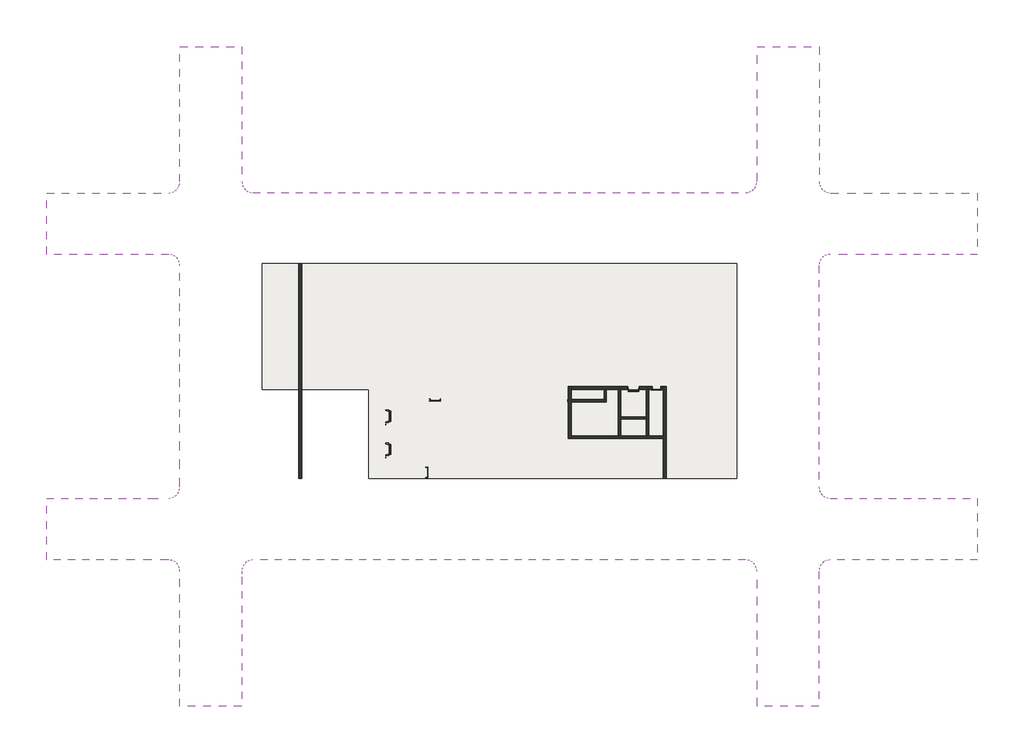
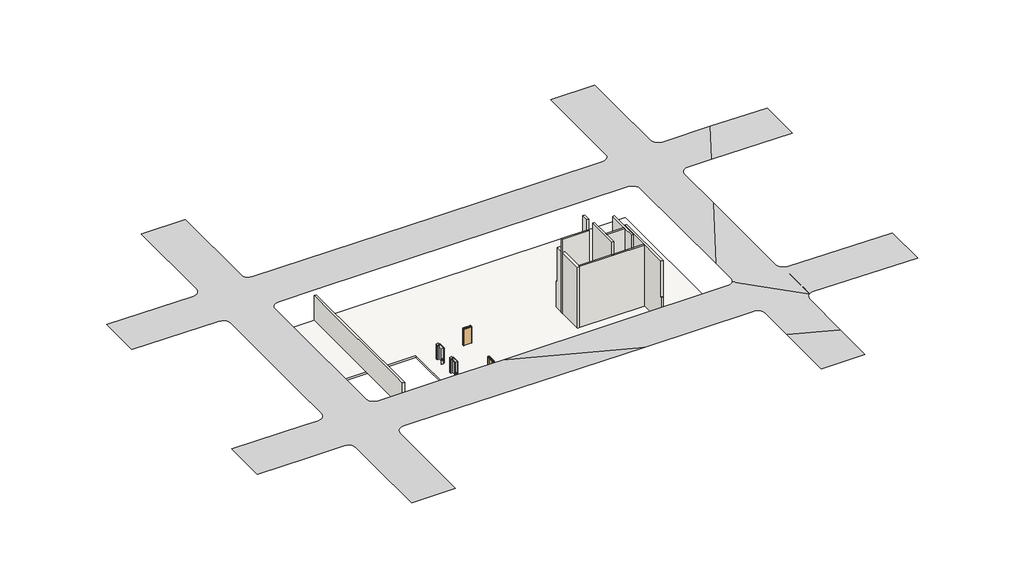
# One storey: 10 walls, 4 proxies, 3 doors, 1 slab.
"""IFC4 building model written with IfcOpenShell, lengths in millimetres."""

from ifc_helpers import new_model, si_unit, frame, origin, place, context, project, spatial, polyline, outline, extrude, faceted_brep, triangles, transform, mapped, element, save
from components import lift_single_entry_gen_type1_208d8e88, lift_single_entry_gen_type1_718a1e9e, swing_metal_frame_single_dor_f6efc24d, swing_metal_frame_single_dor1_c5ce34d2

model = new_model("IFC4")

# Units and contexts
model_context = context("Model", 3, world=origin())
ifc_project = project(units=[si_unit("LENGTHUNIT", "METRE", prefix="MILLI")], contexts=[model_context])

# Site, building, storey
site = spatial("IfcSite", under=ifc_project)
building = spatial("IfcBuilding", under=site)
storey = spatial("IfcBuildingStorey", under=building, Name="B1階", Elevation=21600.0)

# Proxies
placement = place(None, origin())
element("IfcBuildingElementProxy", 1, Name="Building Element Proxy", at=placement, inside=storey, context=model_context, shape_type="Tessellation", body=[
    triangles([(52234.9976807, 19209.9995361, 24930.3108398), (52283.9435303, 19519.0178833, 24929.2783447), (52425.9813721, 19797.7845886, 24928.2132935), (52647.2143799, 20019.0175964, 24927.2180054), (52925.9834106, 20161.0554382, 24926.3947998), (53235.0017578, 20209.9989624, 24925.8180908), (56267.7236206, 20209.9989624, 24921.6718323), (66363.1167114, 20209.9989624, 24802.7186279), (66363.1167114, 25689.999353, 24816.7038208), (59254.1087769, 25689.999353, 24900.4708008), (53255.0005371, 25689.999353, 24908.6726257), (52945.9821899, 25738.9428772, 24908.9423767), (52667.2131592, 25880.9830444, 24908.8795898), (52445.9848022, 26102.2137268, 24908.4912415), (52303.9423096, 26380.9827576, 24907.8145386), (52255.0011108, 26690.0011047, 24906.9145935), (52255.0011108, 34327.4884094, 24883.0555847), (52255.0011108, 38735.0007751, 24892.550354), (46734.9985107, 38735.0007751, 24909.198175), (46734.9985107, 32602.9866943, 24895.989679), (46734.9985107, 26709.999884, 24914.4001831), (46686.057312, 26400.9838623, 24915.4326782), (46544.0148193, 26122.2148315, 24916.4977295), (46322.7864624, 25900.9841492, 24917.4906921), (46044.0174316, 25758.9439819, 24918.3162231), (45734.9990845, 25710.0004578, 24918.8906067), (24671.0615479, 25710.0004578, 24947.6865234), (1849.6057068, 25710.0004578, 25016.5172058), (1546.7691044, 25757.9649719, 25017.5334229), (1273.5761868, 25897.1634521, 25018.6589355), (1056.7690716, 26113.9711487, 25019.7797974), (917.5703733, 26387.1637756, 25020.7867126), (869.6057138, 26690.0011047, 25021.5843384), (869.6057138, 38735.0007751, 25047.5315918), (-4650.3943428, 38735.0007751, 25064.1794128), (-4650.3943428, 26690.0011047, 25038.2321594), (-4699.337867, 26380.9827576, 25037.7159119), (-4759.2138634, 26263.4690002, 25037.6414978), (-4841.3771622, 26102.2137268, 25037.8670654), (-5062.6090073, 25880.9830444, 25038.6507385), (-5341.3774567, 25738.9428772, 25039.7553223), (-5650.3940598, 25689.999353, 25041.0738464), (-16527.2760773, 25689.999353, 25088.9011597), (-16527.2760773, 20209.9989624, 25084.2386536), (-5650.3940598, 20209.9989624, 25036.4113403), (-5341.3774567, 20161.0554382, 25035.0114258), (-5062.6090073, 20019.0175964, 25033.6649963), (-4841.3771622, 19797.7845886, 25032.5022766), (-4699.337867, 19519.0178833, 25031.641864), (-4650.3943428, 19209.9995361, 25031.1628235), (-4650.3943428, 4364.6178909, 25018.5333618), (-4650.3943428, -510.0000112, 25022.0168701), (-4699.337867, -819.0170139, 25022.2935974), (-4841.3771622, -1097.7852453, 25022.6610168), (-5062.6090073, -1319.0170177, 25023.0819214), (-5341.3774567, -1461.0564583, 25023.5121277), (-5650.3940598, -1509.9999825, 25023.9121033), (-7509.9532288, -1509.9999825, 25026.1096436), (-16527.2760773, -1509.9999825, 25065.7607117), (-16527.2760773, -7010.0000244, 25061.0819275), (-10187.1607452, -7010.0000244, 25033.2022339), (-5650.3940598, -7010.0000244, 25027.8420959), (-5341.3774567, -7058.9435486, 25027.5118835), (-5062.6090073, -7200.9831345, 25027.2839905), (-4841.3771622, -7422.2149796, 25027.1793457), (-4699.337867, -7700.9828476, 25027.2119019), (-4650.3943428, -8010.000032, 25027.3746826), (-4650.3943428, -12175.2103271, 25030.3512451), (-4650.3943428, -20035.0003418, 24999.8507812), (849.6056992, -20035.0003418, 24976.6266174), (849.6056992, -8535.4638885, 25021.2518005), (849.6056992, -8010.000032, 25020.8750793), (898.5492233, -7700.9828476, 25020.5960266), (1040.5887365, -7422.2149796, 25020.2309326), (1261.820509, -7200.9831345, 25019.8100281), (1540.588813, -7058.9435486, 25019.3798218), (1849.6057068, -7010.0000244, 25018.9798462), (3154.724881, -7010.0000244, 25017.4380798), (32062.7499023, -7010.0000244, 24895.3757629), (45734.9990845, -7010.0000244, 24895.3757629), (46044.0174316, -7058.9435486, 24894.6409241), (46322.7864624, -7200.9831345, 24892.5108215), (46544.0148193, -7422.2149796, 24889.1924194), (46686.057312, -7700.9828476, 24885.0112793), (46734.9985107, -8010.000032, 24880.374353), (46734.9985107, -12581.5448273, 24811.8017944), (46734.9985107, -20035.0003418, 24782.8779785), (52234.9976807, -20035.0003418, 24759.6561401), (52234.9976807, -14670.0801361, 24780.4734741), (52234.9976807, -8010.000032, 24880.374353), (52283.9435303, -7700.9828476, 24885.0112793), (52425.9813721, -7422.2149796, 24889.1924194), (52647.2143799, -7200.9831345, 24892.5108215), (52749.910437, -7148.6572586, 24893.2944946), (52925.9834106, -7058.9435486, 24891.4504211), (53235.0017578, -7010.0000244, 24887.9343567), (66363.1167114, -7010.0000244, 24733.2437988), (66363.1167114, -1509.9999825, 24747.2824768), (53235.0017578, -1509.9999825, 24901.9707092), (52925.9834106, -1461.0564583, 24905.7379211), (52647.2143799, -1319.0170177, 24909.3842102), (52425.9813721, -1097.7852453, 24912.5561096), (52283.9435303, -819.0170139, 24914.9420105), (52234.9976807, -510.0000112, 24916.3070435), (52234.9976807, 12809.9680939, 24950.3026428), (46734.9985107, 19209.9995361, 24937.8289856), (46734.9985107, 2717.4931389, 24989.3514221), (46734.9985107, -510.0000112, 24981.1123901), (46686.057312, -819.0170139, 24980.9007751), (46544.0148193, -1097.7852453, 24981.8635071), (46453.4296509, -1188.3725939, 24982.6983398), (46322.7864624, -1319.0170177, 24980.7403198), (46044.0174316, -1461.0564583, 24978.6102173), (45734.9990845, -1509.9999825, 24977.8753784), (17578.9095612, -1509.9999825, 24977.8753784), (11465.7420044, -1509.9999825, 25003.6877563), (1849.6057068, -1509.9999825, 25015.0498535), (1546.7691044, -1462.035323, 25015.3730896), (1273.5761868, -1322.8366974, 25015.5963318), (1056.7690716, -1106.0295822, 25015.6986511), (917.5703733, -832.8366646, 25015.6684204), (869.6057138, -529.9999895, 25015.5079651), (869.6057138, 15704.7902344, 25003.9086731), (869.6057138, 19209.9995361, 25006.8898865), (918.549238, 19519.0178833, 25006.9387207), (1060.5887512, 19797.7845886, 25006.5503723), (1205.2584091, 19942.4548279, 25006.0364502), (1281.820451, 20019.0175964, 25005.9713379), (1560.588755, 20161.0554382, 25005.4364868), (1869.6057941, 20209.9989624, 25004.6109558), (7065.9710266, 20209.9989624, 24988.9374939), (45734.9990845, 20209.9989624, 24936.0732788), (46044.0174316, 20161.0554382, 24935.8035278), (46322.7864624, 20019.0175964, 24935.8663147), (46544.0148193, 19797.7845886, 24936.2546631), (46686.057312, 19519.0178833, 24936.931366)], [[64, 65, 55], [64, 56, 63], [67, 68, 71], [66, 73, 65], [68, 69, 70], [74, 55, 65], [61, 62, 58], [58, 59, 61], [62, 57, 58], [61, 59, 60], [57, 62, 63], [56, 64, 55], [54, 55, 74], [63, 56, 57], [54, 121, 53], [66, 67, 72], [70, 71, 68], [65, 73, 74], [71, 72, 67], [75, 120, 54], [76, 77, 118], [75, 76, 119], [54, 74, 75], [120, 75, 119], [122, 53, 121], [54, 120, 121], [117, 78, 116], [117, 118, 77], [115, 116, 78], [118, 119, 76], [77, 78, 117], [79, 115, 78], [73, 66, 72], [53, 122, 52], [46, 47, 40], [44, 45, 42], [46, 41, 45], [127, 39, 48], [126, 48, 49], [47, 48, 39], [42, 43, 44], [40, 41, 46], [42, 45, 41], [31, 38, 39], [32, 36, 37], [35, 36, 34], [37, 38, 32], [40, 47, 39], [125, 49, 50], [123, 124, 50], [52, 122, 51], [50, 124, 125], [126, 49, 125], [39, 127, 31], [128, 129, 29], [30, 127, 128], [127, 48, 126], [38, 31, 32], [34, 36, 33], [36, 32, 33], [130, 131, 28], [30, 128, 29], [29, 129, 28], [30, 31, 127], [130, 28, 129], [131, 27, 28], [123, 51, 122], [51, 123, 50], [82, 83, 111], [80, 81, 113], [82, 112, 81], [86, 87, 89], [84, 92, 83], [91, 84, 85], [83, 92, 111], [79, 80, 114], [112, 113, 81], [80, 113, 114], [111, 112, 82], [104, 108, 109], [104, 107, 108], [109, 110, 103], [111, 102, 110], [85, 86, 90], [89, 90, 86], [91, 92, 84], [89, 87, 88], [93, 101, 111], [94, 95, 100], [93, 94, 101], [111, 92, 93], [111, 101, 102], [109, 103, 104], [110, 102, 103], [96, 97, 98], [100, 95, 99], [98, 99, 96], [100, 101, 94], [96, 99, 95], [107, 104, 105], [91, 85, 90], [14, 24, 134], [26, 132, 133], [133, 134, 25], [106, 105, 1], [135, 136, 2], [1, 136, 106], [27, 131, 132], [135, 14, 134], [26, 27, 132], [24, 25, 134], [26, 133, 25], [15, 22, 23], [16, 20, 21], [17, 19, 20], [21, 22, 16], [23, 24, 14], [1, 2, 136], [106, 107, 105], [3, 14, 135], [13, 4, 5], [14, 3, 4], [6, 7, 11], [10, 7, 8], [7, 10, 11], [5, 6, 12], [12, 6, 11], [16, 22, 15], [18, 19, 17], [17, 20, 16], [9, 10, 8], [13, 14, 4], [12, 13, 5], [23, 14, 15], [135, 2, 3], [114, 115, 79]], closed=False),
])
lift_single_entry_gen_type1_shape = lift_single_entry_gen_type1_208d8e88(model_context)
element("IfcBuildingElementProxy", 2, Name="Lift_Single Entry_GEN : Type1", ObjectType="Lift_Single Entry_GEN : Type1", at=placement, inside=storey, context=model_context, shape_type="MappedRepresentation", body=[
    mapped(lift_single_entry_gen_type1_shape, transform((13819.6062665, 5591.0857154, 21600.0), x_axis=(0.0, 1.0, 0.0), y_axis=(-1.0, 0.0, 0.0), z_axis=(0.0, 0.0, 1.0))),
])
element("IfcBuildingElementProxy", 3, Name="Lift_Single Entry_GEN : Type1", ObjectType="Lift_Single Entry_GEN : Type1", at=placement, inside=storey, context=model_context, shape_type="MappedRepresentation", body=[
    mapped(lift_single_entry_gen_type1_shape, transform((13819.6062665, 2641.0857154, 21600.0), x_axis=(0.0, 1.0, 0.0), y_axis=(-1.0, 0.0, 0.0), z_axis=(0.0, 0.0, 1.0))),
])
lift_single_entry_gen_type1_2_shape = lift_single_entry_gen_type1_718a1e9e(model_context)
element("IfcBuildingElementProxy", 4, Name="Lift_Single Entry_GEN : Type1", ObjectType="Lift_Single Entry_GEN : Type1", at=placement, inside=storey, context=model_context, shape_type="MappedRepresentation", body=[
    mapped(lift_single_entry_gen_type1_2_shape, transform((35528.244232, 8295.005792, 21600.0), x_axis=(1.0, 0.0, 0.0), y_axis=(0.0, 1.0, 0.0), z_axis=(0.0, 0.0, 1.0))),
])

# Doors
swing_metal_frame_single_dor_shape = swing_metal_frame_single_dor_f6efc24d(model_context)
element("IfcDoor", 5, ObjectType="Swing_Metal Frame_Single_DOR : 2140h x 920 (2210x1010 BLK)", at=placement, inside=storey, context=model_context, shape_type="MappedRepresentation", body=[
    mapped(swing_metal_frame_single_dor_shape, transform((17369.6062665, 770.0, 21600.0), x_axis=(0.0, 1.0, 0.0), y_axis=(-1.0, 0.0, 0.0), z_axis=(0.0, 0.0, 1.0))),
])
element("IfcDoor", 6, ObjectType="Swing_Metal Frame_Single_DOR : 2140h x 920 (2210x1010 BLK)", at=placement, inside=storey, context=model_context, shape_type="MappedRepresentation", body=[
    mapped(swing_metal_frame_single_dor_shape, transform((18069.6062665, 7210.0, 21600.0), x_axis=(1.0, 0.0, 0.0), y_axis=(0.0, 1.0, 0.0), z_axis=(0.0, 0.0, 1.0))),
])
swing_metal_frame_single_dor1_shape = swing_metal_frame_single_dor1_c5ce34d2(model_context)
element("IfcDoor", 7, ObjectType="Swing_Metal Frame_Single_DOR1 : 2040h x 820 (2110x920 STUD)", at=placement, inside=storey, context=model_context, shape_type="MappedRepresentation", body=[
    mapped(swing_metal_frame_single_dor1_shape, transform((37782.1585166, 8295.005792, 21600.0), x_axis=(-1.0, 0.0, 0.0), y_axis=(0.0, -1.0, 0.0), z_axis=(0.0, 0.0, 1.0))),
])

# Slab
element("IfcSlab", 8, ObjectType="Concept Floor_300mm", at=placement, inside=storey, context=model_context, shape_type="SweptSolid", body=[
    extrude(outline(polyline([(12182.1904782, 8160.005792), (2669.6057353, 8160.005792), (2669.6057353, 19410.0), (44935.0, 19410.0), (44935.0, 250.0), (12182.1904782, 250.0), (12182.1904782, 8160.005792)])), frame((0.0, 0.0, 21300.0), z_axis=(0.0, 0.0, 1.0), x_axis=(1.0, 0.0, 0.0)), (0.0, 0.0, 1.0), 300.0),
])

# Walls
element("IfcWall", 9, ObjectType="Brickwork_Double_270mm", at=placement, inside=storey, context=model_context, shape_type="Brep", body=[
    faceted_brep([(30192.1585166, 3816.2680774, 21600.0), (30192.1585166, 4016.2680774, 21600.0), (30192.1585166, 8160.005792, 21600.0), (30192.1585166, 8430.005792, 21600.0), (30192.1585166, 8430.005792, 24800.0), (30192.1585166, 8430.005792, 25100.0), (30192.1585166, 8160.005792, 25100.0), (30192.1585166, 8160.005792, 29700.0), (30192.1585166, 4016.2680774, 29700.0), (30192.1585166, 3816.2680774, 29700.0), (29922.1585166, 3816.2680774, 21600.0), (29922.1585166, 3816.2680774, 29700.0), (29922.1585166, 8160.005792, 29700.0), (29922.1585166, 8160.005792, 27800.0), (29922.1585166, 8160.005792, 25100.0), (29922.1585166, 8430.005792, 25100.0), (29922.1585166, 8430.005792, 21600.0)], [[[0, 1, 2, 3, 4, 5, 6, 7, 8, 9]], [[10, 11, 12, 13, 14, 15, 16]], [[3, 2, 1, 0, 10, 16]], [[9, 8, 7, 12, 11]], [[14, 6, 5, 15]], [[5, 4, 3, 16, 15]], [[7, 6, 14, 13, 12]], [[0, 9, 11, 10]]]),
])
element("IfcWall", 10, ObjectType="Brickwork_Double_270mm", at=placement, inside=storey, context=model_context, shape_type="Brep", body=[
    faceted_brep([(38647.4654784, 250.0, 21600.0), (38647.4654784, 8430.005792, 21600.0), (38647.4654784, 8430.005792, 25100.0), (38647.4654784, 8160.005792, 25100.0), (38647.4654784, 8160.005792, 29700.0), (38647.4654784, 309.0898177, 29700.0), (38647.4654784, 309.0898177, 24900.0), (38647.4654784, 250.0, 24900.0), (38377.4654784, 8430.005792, 21600.0), (38377.4654784, 8160.005792, 21600.0), (38377.4654784, 4016.2680774, 21600.0), (38377.4654784, 3816.2680774, 21600.0), (38377.4654784, 250.0, 21600.0), (38377.4654784, 250.0, 24900.0), (38377.4654784, 309.0898177, 24900.0), (38377.4654784, 309.0898177, 29700.0), (38377.4654784, 3816.2680774, 29700.0), (38377.4654784, 4016.2680774, 29700.0), (38377.4654784, 8160.005792, 29700.0), (38377.4654784, 8160.005792, 25100.0), (38377.4654784, 8430.005792, 25100.0), (38377.4654784, 8430.005792, 24800.0)], [[[0, 1, 2, 3, 4, 5, 6, 7]], [[8, 9, 10, 11, 12, 13, 14, 15, 16, 17, 18, 19, 20, 21]], [[1, 0, 12, 11, 10, 9, 8]], [[5, 4, 18, 17, 16, 15]], [[3, 2, 20, 19]], [[1, 8, 21, 20, 2]], [[18, 4, 3, 19]], [[14, 13, 7, 6]], [[12, 0, 7, 13]], [[5, 15, 14, 6]]]),
])
element("IfcWall", 11, ObjectType="Brickwork_Double_270mm", at=placement, inside=storey, context=model_context, shape_type="SweptSolid", body=[
    extrude(outline(polyline([(6182.1904782, 19410.0), (6182.1904782, 250.0), (5912.1904782, 250.0), (5912.1904782, 19410.0), (6182.1904782, 19410.0)])), frame((0.0, 0.0, 21600.0), z_axis=(0.0, 0.0, 1.0), x_axis=(1.0, 0.0, 0.0)), (0.0, 0.0, 1.0), 3300.0),
])
element("IfcWall", 12, ObjectType="Brickwork_Double_270mm", at=placement, inside=storey, context=model_context, shape_type="Brep", body=[
    faceted_brep([(38377.4654784, 8160.005792, 24800.0), (30192.1585166, 8160.005792, 24800.0), (30192.1585166, 8160.005792, 21600.0), (35182.1585166, 8160.005792, 21600.0), (35182.1585166, 8160.005792, 23700.0), (36282.1585166, 8160.005792, 23700.0), (36282.1585166, 8160.005792, 21600.0), (37342.1585166, 8160.005792, 21600.0), (37342.1585166, 8160.005792, 24090.0), (38222.1585166, 8160.005792, 24090.0), (38222.1585166, 8160.005792, 21600.0), (38377.4654784, 8160.005792, 21600.0), (30192.1585166, 8430.005792, 24800.0), (38377.4654784, 8430.005792, 24800.0), (38377.4654784, 8430.005792, 21600.0), (38222.1585166, 8430.005792, 21600.0), (38222.1585166, 8430.005792, 24090.0), (37342.1585166, 8430.005792, 24090.0), (37342.1585166, 8430.005792, 21600.0), (36282.1585166, 8430.005792, 21600.0), (36282.1585166, 8430.005792, 23700.0), (35182.1585166, 8430.005792, 23700.0), (35182.1585166, 8430.005792, 21600.0), (30192.1585166, 8430.005792, 21600.0), (35052.1585166, 8430.005792, 22300.0), (35052.1585166, 8430.005792, 22500.0), (34952.1585166, 8430.005792, 22500.0), (34952.1585166, 8430.005792, 22300.0), (35782.1585166, 8430.005792, 23800.0), (35782.1585166, 8430.005792, 24000.0), (35682.1585166, 8430.005792, 24000.0), (35682.1585166, 8430.005792, 23800.0), (35052.1585166, 8410.005792, 22500.0), (35052.1585166, 8410.005792, 22300.0), (34952.1585166, 8410.005792, 22300.0), (34952.1585166, 8410.005792, 22500.0), (35782.1585166, 8410.005792, 24000.0), (35782.1585166, 8410.005792, 23800.0), (35682.1585166, 8410.005792, 23800.0), (35682.1585166, 8410.005792, 24000.0)], [[[0, 1, 2, 3, 4, 5, 6, 7, 8, 9, 10, 11]], [[12, 13, 14, 15, 16, 17, 18, 19, 20, 21, 22, 23], [24, 25, 26, 27], [28, 29, 30, 31]], [[22, 3, 2, 23]], [[6, 19, 18, 7]], [[14, 11, 10, 15]], [[1, 0, 13, 12]], [[21, 4, 3, 22]], [[5, 20, 19, 6]], [[4, 21, 20, 5]], [[32, 33, 34, 35]], [[33, 32, 25, 24]], [[32, 35, 26, 25]], [[35, 34, 27, 26]], [[34, 33, 24, 27]], [[36, 37, 38, 39]], [[37, 36, 29, 28]], [[36, 39, 30, 29]], [[39, 38, 31, 30]], [[38, 37, 28, 31]], [[17, 8, 7, 18]], [[8, 17, 16, 9]], [[9, 16, 15, 10]], [[0, 11, 14, 13]], [[2, 1, 12, 23]]]),
])
element("IfcWall", 13, ObjectType="C1 - Concrete Type 2", at=placement, inside=storey, context=model_context, shape_type="Brep", body=[
    faceted_brep([(29892.1585166, 7080.005792, 21600.0), (33332.1585166, 7080.005792, 21600.0), (33332.1585166, 7080.005792, 31400.0), (29892.1585166, 7080.005792, 31400.0), (29892.1585166, 7280.005792, 21600.0), (29892.1585166, 7280.005792, 31400.0), (33332.1585166, 7280.005792, 31400.0), (33332.1585166, 7280.005792, 21600.0), (33132.1585166, 7280.005792, 21600.0)], [[[0, 1, 2, 3]], [[4, 5, 6, 7, 8]], [[1, 0, 4, 8, 7]], [[3, 2, 6, 5]], [[2, 1, 7, 6]], [[0, 3, 5, 4]]]),
])
element("IfcWall", 14, ObjectType="C1 - Concrete Type 2", at=placement, inside=storey, context=model_context, shape_type="Brep", body=[
    faceted_brep([(34382.1585166, 8160.005792, 31400.0), (34382.1585166, 8160.005792, 21600.0), (34382.1585166, 4016.2680774, 21600.0), (34382.1585166, 4016.2680774, 31400.0), (34582.1585166, 8160.005792, 21600.0), (34582.1585166, 8160.005792, 31400.0), (34582.1585166, 5730.005792, 31400.0), (34582.1585166, 5530.005792, 31400.0), (34582.1585166, 4016.2680774, 31400.0), (34582.1585166, 4016.2680774, 21600.0), (34582.1585166, 5530.005792, 21600.0), (34582.1585166, 5730.005792, 21600.0)], [[[0, 1, 2, 3]], [[4, 5, 6, 7, 8, 9, 10, 11]], [[2, 1, 4, 11, 10, 9]], [[0, 3, 8, 7, 6, 5]], [[2, 9, 8, 3]], [[0, 5, 4, 1]]]),
])
element("IfcWall", 15, ObjectType="C1 - Concrete Type 2", at=placement, inside=storey, context=model_context, shape_type="Brep", body=[
    faceted_brep([(33132.1585166, 8160.005792, 32800.0), (33132.1585166, 8160.005792, 21600.0), (33132.1585166, 7280.005792, 21600.0), (33132.1585166, 7280.005792, 32800.0), (33332.1585166, 8160.005792, 21600.0), (33332.1585166, 8160.005792, 32800.0), (33332.1585166, 7280.005792, 32800.0), (33332.1585166, 7280.005792, 31400.0), (33332.1585166, 7280.005792, 21600.0)], [[[0, 1, 2, 3]], [[4, 5, 6, 7, 8]], [[2, 1, 4, 8]], [[3, 2, 8, 7, 6]], [[0, 3, 6, 5]], [[0, 5, 4, 1]]]),
])
element("IfcWall", 16, ObjectType="C1 - Concrete Type 2", at=placement, inside=storey, context=model_context, shape_type="SweptSolid", body=[
    extrude(outline(polyline([(36882.1585166, 5530.005792), (34582.1585166, 5530.005792), (34582.1585166, 5730.005792), (36882.1585166, 5730.005792), (36882.1585166, 5530.005792)])), frame((0.0, 0.0, 21600.0), z_axis=(0.0, 0.0, 1.0), x_axis=(1.0, 0.0, 0.0)), (0.0, 0.0, 1.0), 9800.0),
])
element("IfcWall", 17, ObjectType="C1 - Concrete Type 2", at=placement, inside=storey, context=model_context, shape_type="Brep", body=[
    faceted_brep([(36882.1585166, 8160.005792, 31400.0), (36882.1585166, 8160.005792, 21600.0), (36882.1585166, 5730.005792, 21600.0), (36882.1585166, 5530.005792, 21600.0), (36882.1585166, 4016.2680774, 21600.0), (36882.1585166, 4016.2680774, 31400.0), (36882.1585166, 5530.005792, 31400.0), (36882.1585166, 5730.005792, 31400.0), (37082.1585166, 8160.005792, 21600.0), (37082.1585166, 8160.005792, 31400.0), (37082.1585166, 4016.2680774, 31400.0), (37082.1585166, 4016.2680774, 21600.0)], [[[0, 1, 2, 3, 4, 5, 6, 7]], [[8, 9, 10, 11]], [[4, 3, 2, 1, 8, 11]], [[0, 7, 6, 5, 10, 9]], [[4, 11, 10, 5]], [[0, 9, 8, 1]]]),
])
element("IfcWall", 18, ObjectType="C1 - Concrete Type 2", at=placement, inside=storey, context=model_context, shape_type="Brep", body=[
    faceted_brep([(30192.1585166, 3816.2680774, 21600.0), (38377.4654784, 3816.2680774, 21600.0), (38377.4654784, 3816.2680774, 29700.0), (30192.1585166, 3816.2680774, 29700.0), (30192.1585166, 4016.2680774, 21600.0), (30192.1585166, 4016.2680774, 29700.0), (38377.4654784, 4016.2680774, 29700.0), (38377.4654784, 4016.2680774, 21600.0), (37082.1585166, 4016.2680774, 21600.0), (36882.1585166, 4016.2680774, 21600.0), (34582.1585166, 4016.2680774, 21600.0), (34382.1585166, 4016.2680774, 21600.0)], [[[0, 1, 2, 3]], [[4, 5, 6, 7, 8, 9, 10, 11]], [[1, 0, 4, 11, 10, 9, 8, 7]], [[3, 2, 6, 5]], [[2, 1, 7, 6]], [[0, 3, 5, 4]]]),
])

save(model, "model.ifc")
